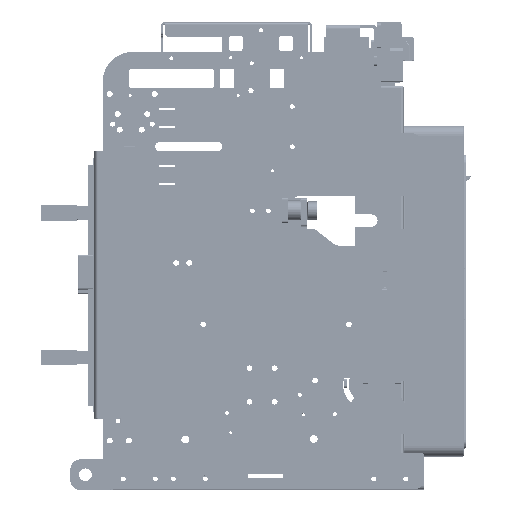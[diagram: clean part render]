
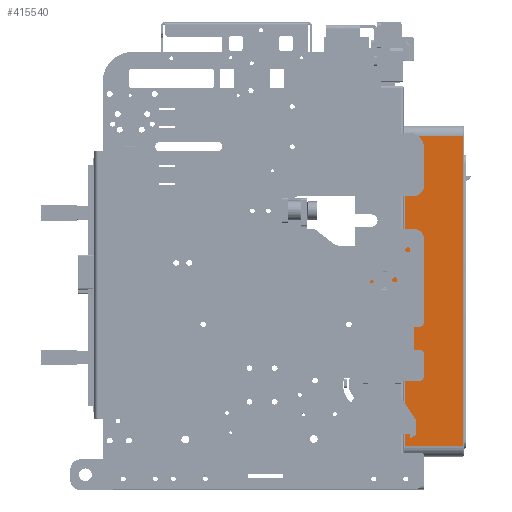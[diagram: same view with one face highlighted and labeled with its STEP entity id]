
A CAD part, top view. The second image highlights one B-rep face of the part: STEP entity #415540.
In plain terms, the highlighted planar face has unit normal (0, 0, 1) as drawn and (-1, 0, 0) by its records, which use the part's own axes.
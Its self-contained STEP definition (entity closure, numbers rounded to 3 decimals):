
#397273=DIRECTION('',(0.,-1.,0.));
#397274=VECTOR('',#397273,310.);
#397275=CARTESIAN_POINT('',(-135.,141.35,108.));
#397276=LINE('',#397275,#397274);
#397277=DIRECTION('',(0.,0.,-1.));
#397278=VECTOR('',#397277,58.);
#397279=CARTESIAN_POINT('',(-135.,-168.65,108.));
#397280=LINE('',#397279,#397278);
#397281=DIRECTION('',(0.,-1.,0.));
#397282=VECTOR('',#397281,156.523);
#397283=CARTESIAN_POINT('',(-135.,-12.127,
50.));
#397284=LINE('',#397283,#397282);
#397285=CARTESIAN_POINT('',(-135.,-6.65,47.));
#397286=CARTESIAN_POINT('',(-134.999,-7.114,
47.43));
#397287=CARTESIAN_POINT('',(-135.,-8.003,
48.247));
#397288=CARTESIAN_POINT('',(-135.,-9.345,
49.224));
#397289=CARTESIAN_POINT('',(-135.,-10.766,
49.861));
#397290=CARTESIAN_POINT('',(-135.,-11.675,
50.));
#397291=CARTESIAN_POINT('',(-135.,-12.127,
50.));
#397293=DIRECTION('',(0.,0.,1.));
#397294=VECTOR('',#397293,34.);
#397295=CARTESIAN_POINT('',(-135.,-6.65,13.));
#397296=LINE('',#397295,#397294);
#397297=DIRECTION('',(0.,0.,1.));
#397298=VECTOR('',#397297,34.);
#397299=CARTESIAN_POINT('',(-135.,-0.25,13.));
#397300=LINE('',#397299,#397298);
#397301=CARTESIAN_POINT('',(-135.,5.227,
50.));
#397302=CARTESIAN_POINT('',(-135.,4.776,
50.));
#397303=CARTESIAN_POINT('',(-135.,3.87,
49.861));
#397304=CARTESIAN_POINT('',(-135.,2.454,
49.229));
#397305=CARTESIAN_POINT('',(-135.001,1.111,
48.254));
#397306=CARTESIAN_POINT('',(-134.999,0.217,
47.433));
#397307=CARTESIAN_POINT('',(-135.,-0.25,47.));
#397309=DIRECTION('',(0.,-1.,0.));
#397310=VECTOR('',#397309,136.123);
#397311=CARTESIAN_POINT('',(-135.,141.35,50.));
#397312=LINE('',#397311,#397310);
#397313=DIRECTION('',(0.,0.,-1.));
#397314=VECTOR('',#397313,58.);
#397315=CARTESIAN_POINT('',(-135.,141.35,108.));
#397316=LINE('',#397315,#397314);
#397577=DIRECTION('',(0.,-1.,0.));
#397578=VECTOR('',#397577,6.4);
#397579=CARTESIAN_POINT('',(-135.,-0.25,13.));
#397580=LINE('',#397579,#397578);
#405670=CARTESIAN_POINT('',(-135.,-0.25,13.));
#405672=VERTEX_POINT('',#405670);
#405675=CARTESIAN_POINT('',(-135.,-6.65,13.));
#405677=VERTEX_POINT('',#405675);
#406995=VERTEX_POINT('',#397301);
#406996=VERTEX_POINT('',#397307);
#407000=CARTESIAN_POINT('',(-135.,141.35,50.));
#407001=VERTEX_POINT('',#407000);
#407036=CARTESIAN_POINT('',(-135.,-168.65,50.));
#407037=VERTEX_POINT('',#407036);
#407040=CARTESIAN_POINT('',(-135.,-12.127,
50.));
#407041=VERTEX_POINT('',#407040);
#407042=VERTEX_POINT('',#397285);
#407048=CARTESIAN_POINT('',(-135.,141.35,108.));
#407050=VERTEX_POINT('',#407048);
#407053=CARTESIAN_POINT('',(-135.,-168.65,108.));
#407054=VERTEX_POINT('',#407053);
#415515=CARTESIAN_POINT('',(-135.,151.35,49.));
#415516=DIRECTION('',(-1.,0.,0.));
#415517=DIRECTION('',(0.,-1.,0.));
#415518=AXIS2_PLACEMENT_3D('',#415515,#415516,#415517);
#415519=PLANE('',#415518);
#415520=ORIENTED_EDGE('',*,*,#415397,.T.);
#415522=ORIENTED_EDGE('',*,*,#415521,.T.);
#415524=ORIENTED_EDGE('',*,*,#415523,.F.);
#415526=ORIENTED_EDGE('',*,*,#415525,.F.);
#415528=ORIENTED_EDGE('',*,*,#415527,.F.);
#415530=ORIENTED_EDGE('',*,*,#415529,.F.);
#415532=ORIENTED_EDGE('',*,*,#415531,.T.);
#415534=ORIENTED_EDGE('',*,*,#415533,.F.);
#415536=ORIENTED_EDGE('',*,*,#415535,.F.);
#415537=ORIENTED_EDGE('',*,*,#415507,.F.);
#415538=EDGE_LOOP('',(#415520,#415522,#415524,#415526,#415528,#415530,#415532,
#415534,#415536,#415537));
#415539=FACE_OUTER_BOUND('',#415538,.F.);
#415540=ADVANCED_FACE('',(#415539),#415519,.T.);
#397292=B_SPLINE_CURVE_WITH_KNOTS('',3,(#397285,#397286,#397287,#397288,#397289,
#397290,#397291),.UNSPECIFIED.,.F.,.F.,(4,1,1,1,4),(0.,0.25,0.5,0.75,
1.),.UNSPECIFIED.);
#397308=B_SPLINE_CURVE_WITH_KNOTS('',3,(#397301,#397302,#397303,#397304,#397305,
#397306,#397307),.UNSPECIFIED.,.F.,.F.,(4,1,1,1,4),(0.,0.25,0.5,0.75,
1.),.UNSPECIFIED.);
#415397=EDGE_CURVE('',#407050,#407054,#397276,.T.);
#415507=EDGE_CURVE('',#407050,#407001,#397316,.T.);
#415521=EDGE_CURVE('',#407054,#407037,#397280,.T.);
#415523=EDGE_CURVE('',#407041,#407037,#397284,.T.);
#415525=EDGE_CURVE('',#407042,#407041,#397292,.T.);
#415527=EDGE_CURVE('',#405677,#407042,#397296,.T.);
#415529=EDGE_CURVE('',#405672,#405677,#397580,.T.);
#415531=EDGE_CURVE('',#405672,#406996,#397300,.T.);
#415533=EDGE_CURVE('',#406995,#406996,#397308,.T.);
#415535=EDGE_CURVE('',#407001,#406995,#397312,.T.);
